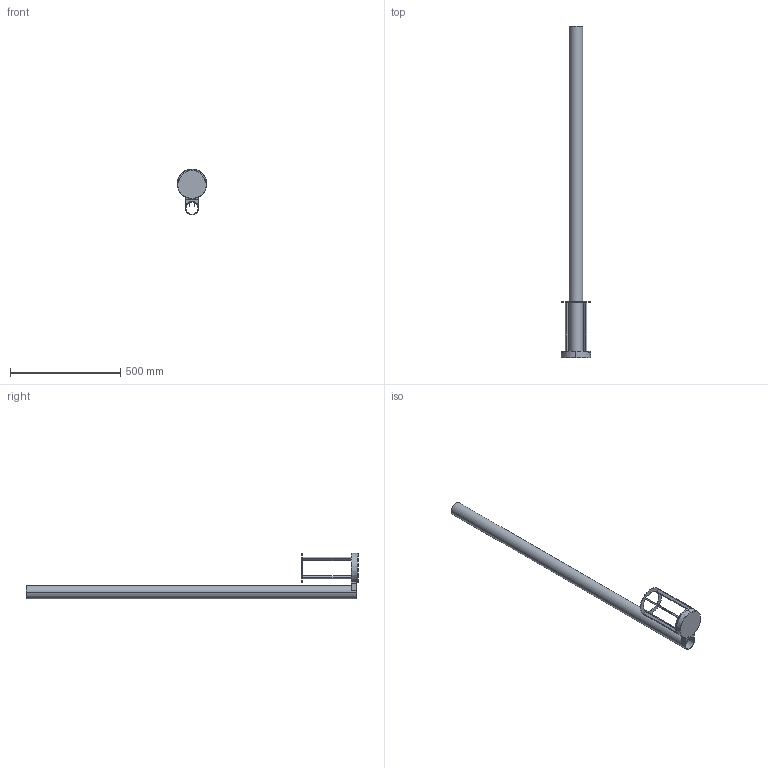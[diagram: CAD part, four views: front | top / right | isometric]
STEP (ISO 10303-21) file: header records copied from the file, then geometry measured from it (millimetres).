
FILE_DESCRIPTION((''),'2;1');
FILE_NAME('PALO60_SW0001','2025-07-24T08:26:30',('Piccioli'),(''),'CREO PARAMETRIC BY PTC INC, 2025010','CREO PARAMETRIC BY PTC INC, 2025010','');
FILE_SCHEMA(('CONFIG_CONTROL_DESIGN'));
Length unit declared in the file: millimetre
Products named in the file (1): PALO60_SW0001
Bounding box: 134.62 x 1505 x 207 mm (x, y, z)
Surface area: 645454.6 mm2 (no closed solid volume)
Topology: 0 solids, 52 shells, 86 faces, 551 edges, 508 vertices
Faces by surface type: cylinder 40, plane 29, cone 10, bspline 4, torus 3
Entity records: 8078 total; most frequent: CARTESIAN_POINT 4410, ORIENTED_EDGE 608, DIRECTION 598, EDGE_CURVE 551, VERTEX_POINT 508, B_SPLINE_CURVE_WITH_KNOTS 248, AXIS2_PLACEMENT_3D 213, VECTOR 172
